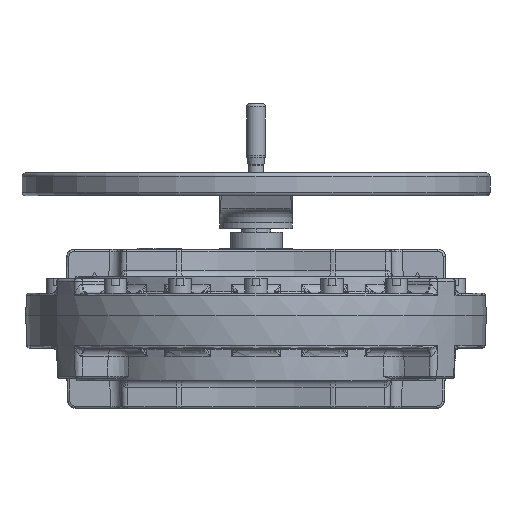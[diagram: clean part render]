
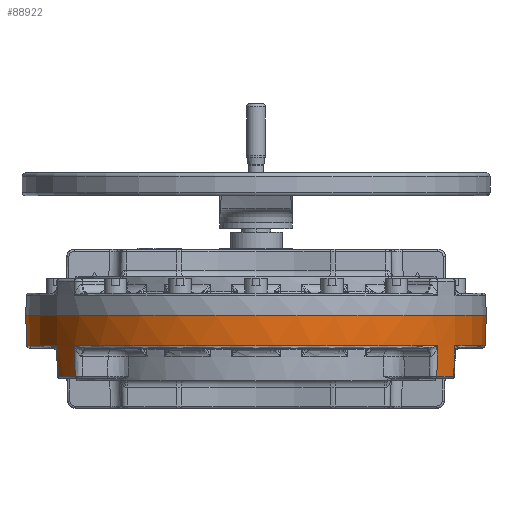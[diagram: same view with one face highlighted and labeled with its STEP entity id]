
A CAD part, front view. The second image highlights one B-rep face of the part: STEP entity #88922.
In plain terms, the highlighted conical face has half-angle 2 degrees and reference radius 310 mm.
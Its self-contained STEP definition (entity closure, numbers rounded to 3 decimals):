
#4571 = EDGE_CURVE ( 'NONE', #87938, #98663, #129608, .T. ) ;
#4968 = CARTESIAN_POINT ( 'NONE',  ( 0., 0., -82.105 ) ) ;
#5436 = DIRECTION ( 'NONE',  ( 1., 0., 0. ) ) ;
#10552 = CARTESIAN_POINT ( 'NONE',  ( -266.191, -153.209, -82.105 ) ) ;
#10683 = ORIENTED_EDGE ( 'NONE', *, *, #77649, .T. ) ;
#10914 = DIRECTION ( 'NONE',  ( 1., 0., 0. ) ) ;
#11904 = AXIS2_PLACEMENT_3D ( 'NONE', #157224, #81256, #5436 ) ;
#13364 = CARTESIAN_POINT ( 'NONE',  ( -308.565, 0., -41.105 ) ) ;
#17643 = DIRECTION ( 'NONE',  ( 1., 0., 0. ) ) ;
#17844 = AXIS2_PLACEMENT_3D ( 'NONE', #4968, #93601, #17643 ) ;
#20344 = CARTESIAN_POINT ( 'NONE',  ( 268.676, -154.639, 0. ) ) ;
#21691 = EDGE_CURVE ( 'NONE', #31932, #28025, #145598, .T. ) ;
#23346 = ORIENTED_EDGE ( 'NONE', *, *, #48522, .F. ) ;
#25028 = CARTESIAN_POINT ( 'NONE',  ( -245.686, -189.046, 0. ) ) ;
#26102 = CIRCLE ( 'NONE', #102127, 308.565 ) ;
#28025 = VERTEX_POINT ( 'NONE', #145929 ) ;
#28147 = VECTOR ( 'NONE', #140147, 1000. ) ;
#28952 = ORIENTED_EDGE ( 'NONE', *, *, #156375, .T. ) ;
#29628 = CARTESIAN_POINT ( 'NONE',  ( 266.191, -153.209, -82.105 ) ) ;
#31932 = VERTEX_POINT ( 'NONE', #13364 ) ;
#32146 = LINE ( 'NONE', #127369, #28147 ) ;
#32777 = DIRECTION ( 'NONE',  ( -0.035, 0., 0.999 ) ) ;
#33083 = DIRECTION ( 'NONE',  ( 0.03, -0.017, 0.999 ) ) ;
#33317 = CARTESIAN_POINT ( 'NONE',  ( -310., 0., 0. ) ) ;
#33346 = LINE ( 'NONE', #102422, #100855 ) ;
#38087 = DIRECTION ( 'NONE',  ( 0., 0., 1. ) ) ;
#43212 = CIRCLE ( 'NONE', #17844, 307.133 ) ;
#43366 = VECTOR ( 'NONE', #49443, 1000. ) ;
#43898 = EDGE_LOOP ( 'NONE', ( #157320, #28952, #69010, #133790, #127093, #93430, #147612, #159973, #10683, #23346, #145436, #128422 ) ) ;
#44323 = VERTEX_POINT ( 'NONE', #131985 ) ;
#48424 = EDGE_CURVE ( 'NONE', #58191, #87938, #112698, .T. ) ;
#48522 = EDGE_CURVE ( 'NONE', #44323, #74295, #33346, .T. ) ;
#49140 = AXIS2_PLACEMENT_3D ( 'NONE', #149423, #86286, #137232 ) ;
#49443 = DIRECTION ( 'NONE',  ( -0.03, -0.017, 0.999 ) ) ;
#53589 = DIRECTION ( 'NONE',  ( 0., 0., 1. ) ) ;
#54787 = AXIS2_PLACEMENT_3D ( 'NONE', #71086, #159754, #83784 ) ;
#55056 = CARTESIAN_POINT ( 'NONE',  ( 244.548, -188.171, -41.105 ) ) ;
#58191 = VERTEX_POINT ( 'NONE', #10552 ) ;
#59598 = VERTEX_POINT ( 'NONE', #82191 ) ;
#62211 = VECTOR ( 'NONE', #101011, 1000. ) ;
#65588 = VERTEX_POINT ( 'NONE', #132195 ) ;
#69010 = ORIENTED_EDGE ( 'NONE', *, *, #116104, .F. ) ;
#71086 = CARTESIAN_POINT ( 'NONE',  ( 0., 0., -41.105 ) ) ;
#74295 = VERTEX_POINT ( 'NONE', #55056 ) ;
#77649 = EDGE_CURVE ( 'NONE', #98663, #74295, #26102, .T. ) ;
#78480 = VERTEX_POINT ( 'NONE', #29628 ) ;
#80394 = CONICAL_SURFACE ( 'NONE', #49140, 310., 0.035 ) ;
#81256 = DIRECTION ( 'NONE',  ( 0., 0., 1. ) ) ;
#82191 = CARTESIAN_POINT ( 'NONE',  ( 267.432, -153.923, -41.105 ) ) ;
#82802 = LINE ( 'NONE', #20344, #146228 ) ;
#83419 = AXIS2_PLACEMENT_3D ( 'NONE', #113992, #38087, #126766 ) ;
#83784 = DIRECTION ( 'NONE',  ( 1., 0., 0. ) ) ;
#85569 = CARTESIAN_POINT ( 'NONE',  ( -243.413, -187.298, -82.105 ) ) ;
#86286 = DIRECTION ( 'NONE',  ( 0., 0., 1. ) ) ;
#86799 = DIRECTION ( 'NONE',  ( 0., 0., 1. ) ) ;
#87938 = VERTEX_POINT ( 'NONE', #85569 ) ;
#88192 = AXIS2_PLACEMENT_3D ( 'NONE', #129467, #53589, #142213 ) ;
#88922 = ADVANCED_FACE ( 'NONE', ( #130059 ), #80394, .T. ) ;
#93245 = EDGE_CURVE ( 'NONE', #31932, #102645, #113478, .T. ) ;
#93430 = ORIENTED_EDGE ( 'NONE', *, *, #105564, .F. ) ;
#93601 = DIRECTION ( 'NONE',  ( 0., 0., 1. ) ) ;
#97953 = CARTESIAN_POINT ( 'NONE',  ( -310., 0., 0. ) ) ;
#98663 = VERTEX_POINT ( 'NONE', #155393 ) ;
#99909 = CARTESIAN_POINT ( 'NONE',  ( -268.676, -154.639, 0. ) ) ;
#100855 = VECTOR ( 'NONE', #115077, 1000. ) ;
#101011 = DIRECTION ( 'NONE',  ( -0.028, -0.021, 0.999 ) ) ;
#102127 = AXIS2_PLACEMENT_3D ( 'NONE', #162683, #86799, #10914 ) ;
#102422 = CARTESIAN_POINT ( 'NONE',  ( 245.686, -189.046, 0. ) ) ;
#102645 = VERTEX_POINT ( 'NONE', #97953 ) ;
#105564 = EDGE_CURVE ( 'NONE', #58191, #28025, #140560, .T. ) ;
#109491 = VECTOR ( 'NONE', #32777, 1000. ) ;
#112698 = CIRCLE ( 'NONE', #83419, 307.133 ) ;
#113478 = LINE ( 'NONE', #33317, #109491 ) ;
#113992 = CARTESIAN_POINT ( 'NONE',  ( 0., 0., -82.105 ) ) ;
#115077 = DIRECTION ( 'NONE',  ( 0.028, -0.021, 0.999 ) ) ;
#116104 = EDGE_CURVE ( 'NONE', #102645, #65588, #144403, .T. ) ;
#118934 = CIRCLE ( 'NONE', #54787, 308.565 ) ;
#126766 = DIRECTION ( 'NONE',  ( 1., 0., 0. ) ) ;
#127093 = ORIENTED_EDGE ( 'NONE', *, *, #21691, .T. ) ;
#127369 = CARTESIAN_POINT ( 'NONE',  ( 310., 0., 0. ) ) ;
#128422 = ORIENTED_EDGE ( 'NONE', *, *, #142798, .T. ) ;
#129105 = EDGE_CURVE ( 'NONE', #59598, #140925, #118934, .T. ) ;
#129467 = CARTESIAN_POINT ( 'NONE',  ( 0., 0., -41.105 ) ) ;
#129608 = LINE ( 'NONE', #25028, #62211 ) ;
#130059 = FACE_OUTER_BOUND ( 'NONE', #43898, .T. ) ;
#131985 = CARTESIAN_POINT ( 'NONE',  ( 243.413, -187.298, -82.105 ) ) ;
#132195 = CARTESIAN_POINT ( 'NONE',  ( 310., 0., 0. ) ) ;
#133790 = ORIENTED_EDGE ( 'NONE', *, *, #93245, .F. ) ;
#135188 = EDGE_CURVE ( 'NONE', #44323, #78480, #43212, .T. ) ;
#137232 = DIRECTION ( 'NONE',  ( -1., 0., 0. ) ) ;
#140147 = DIRECTION ( 'NONE',  ( 0.035, 0., 0.999 ) ) ;
#140560 = LINE ( 'NONE', #99909, #43366 ) ;
#140925 = VERTEX_POINT ( 'NONE', #162249 ) ;
#142213 = DIRECTION ( 'NONE',  ( 1., 0., 0. ) ) ;
#142798 = EDGE_CURVE ( 'NONE', #78480, #59598, #82802, .T. ) ;
#144403 = CIRCLE ( 'NONE', #11904, 310. ) ;
#145436 = ORIENTED_EDGE ( 'NONE', *, *, #135188, .T. ) ;
#145598 = CIRCLE ( 'NONE', #88192, 308.565 ) ;
#145929 = CARTESIAN_POINT ( 'NONE',  ( -267.432, -153.923, -41.105 ) ) ;
#146228 = VECTOR ( 'NONE', #33083, 1000. ) ;
#147612 = ORIENTED_EDGE ( 'NONE', *, *, #48424, .T. ) ;
#149423 = CARTESIAN_POINT ( 'NONE',  ( 0., 0., 0. ) ) ;
#155393 = CARTESIAN_POINT ( 'NONE',  ( -244.548, -188.171, -41.105 ) ) ;
#156375 = EDGE_CURVE ( 'NONE', #140925, #65588, #32146, .T. ) ;
#157224 = CARTESIAN_POINT ( 'NONE',  ( 0., 0., 0. ) ) ;
#157320 = ORIENTED_EDGE ( 'NONE', *, *, #129105, .T. ) ;
#159754 = DIRECTION ( 'NONE',  ( 0., 0., 1. ) ) ;
#159973 = ORIENTED_EDGE ( 'NONE', *, *, #4571, .T. ) ;
#162249 = CARTESIAN_POINT ( 'NONE',  ( 308.565, 0., -41.105 ) ) ;
#162683 = CARTESIAN_POINT ( 'NONE',  ( 0., 0., -41.105 ) ) ;
